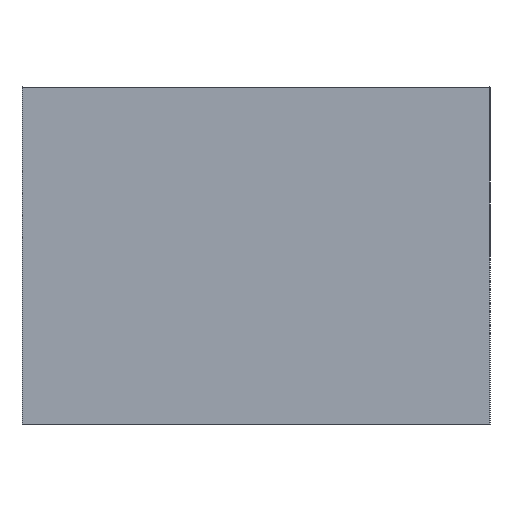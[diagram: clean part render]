
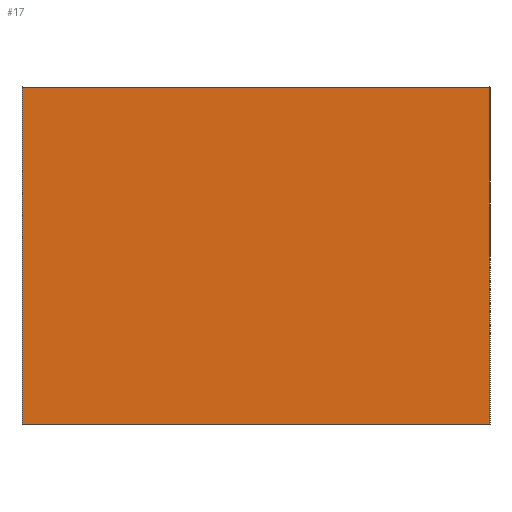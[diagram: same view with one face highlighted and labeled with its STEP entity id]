
A CAD part, left-side view. The second image highlights one B-rep face of the part: STEP entity #17.
In plain terms, the highlighted planar face has unit normal (-1, 0, 0).
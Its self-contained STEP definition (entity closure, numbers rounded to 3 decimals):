
#17 = ADVANCED_FACE('',(#18),#32,.F.);
#18 = FACE_BOUND('',#19,.F.);
#19 = EDGE_LOOP('',(#20,#55,#83,#111));
#20 = ORIENTED_EDGE('',*,*,#21,.F.);
#21 = EDGE_CURVE('',#22,#24,#26,.T.);
#22 = VERTEX_POINT('',#23);
#23 = CARTESIAN_POINT('',(-1.7,-0.9,0.));
#24 = VERTEX_POINT('',#25);
#25 = CARTESIAN_POINT('',(-1.7,-0.9,1.3));
#26 = SURFACE_CURVE('',#27,(#31,#43),.PCURVE_S1.);
#27 = LINE('',#28,#29);
#28 = CARTESIAN_POINT('',(-1.7,-0.9,0.));
#29 = VECTOR('',#30,1.);
#30 = DIRECTION('',(0.,0.,1.));
#31 = PCURVE('',#32,#37);
#32 = PLANE('',#33);
#33 = AXIS2_PLACEMENT_3D('',#34,#35,#36);
#34 = CARTESIAN_POINT('',(-1.7,-0.9,0.));
#35 = DIRECTION('',(1.,0.,0.));
#36 = DIRECTION('',(0.,0.,1.));
#37 = DEFINITIONAL_REPRESENTATION('',(#38),#42);
#38 = LINE('',#39,#40);
#39 = CARTESIAN_POINT('',(0.,0.));
#40 = VECTOR('',#41,1.);
#41 = DIRECTION('',(1.,0.));
#42 = ( GEOMETRIC_REPRESENTATION_CONTEXT(2) 
PARAMETRIC_REPRESENTATION_CONTEXT() REPRESENTATION_CONTEXT('2D SPACE',''
  ) );
#43 = PCURVE('',#44,#49);
#44 = PLANE('',#45);
#45 = AXIS2_PLACEMENT_3D('',#46,#47,#48);
#46 = CARTESIAN_POINT('',(-1.7,-0.9,0.));
#47 = DIRECTION('',(0.,1.,0.));
#48 = DIRECTION('',(0.,0.,1.));
#49 = DEFINITIONAL_REPRESENTATION('',(#50),#54);
#50 = LINE('',#51,#52);
#51 = CARTESIAN_POINT('',(0.,0.));
#52 = VECTOR('',#53,1.);
#53 = DIRECTION('',(1.,0.));
#54 = ( GEOMETRIC_REPRESENTATION_CONTEXT(2) 
PARAMETRIC_REPRESENTATION_CONTEXT() REPRESENTATION_CONTEXT('2D SPACE',''
  ) );
#55 = ORIENTED_EDGE('',*,*,#56,.T.);
#56 = EDGE_CURVE('',#22,#57,#59,.T.);
#57 = VERTEX_POINT('',#58);
#58 = CARTESIAN_POINT('',(-1.7,0.9,0.));
#59 = SURFACE_CURVE('',#60,(#64,#71),.PCURVE_S1.);
#60 = LINE('',#61,#62);
#61 = CARTESIAN_POINT('',(-1.7,-0.9,0.));
#62 = VECTOR('',#63,1.);
#63 = DIRECTION('',(0.,1.,0.));
#64 = PCURVE('',#32,#65);
#65 = DEFINITIONAL_REPRESENTATION('',(#66),#70);
#66 = LINE('',#67,#68);
#67 = CARTESIAN_POINT('',(0.,0.));
#68 = VECTOR('',#69,1.);
#69 = DIRECTION('',(0.,-1.));
#70 = ( GEOMETRIC_REPRESENTATION_CONTEXT(2) 
PARAMETRIC_REPRESENTATION_CONTEXT() REPRESENTATION_CONTEXT('2D SPACE',''
  ) );
#71 = PCURVE('',#72,#77);
#72 = PLANE('',#73);
#73 = AXIS2_PLACEMENT_3D('',#74,#75,#76);
#74 = CARTESIAN_POINT('',(-1.7,-0.9,0.));
#75 = DIRECTION('',(0.,0.,1.));
#76 = DIRECTION('',(1.,0.,0.));
#77 = DEFINITIONAL_REPRESENTATION('',(#78),#82);
#78 = LINE('',#79,#80);
#79 = CARTESIAN_POINT('',(0.,0.));
#80 = VECTOR('',#81,1.);
#81 = DIRECTION('',(0.,1.));
#82 = ( GEOMETRIC_REPRESENTATION_CONTEXT(2) 
PARAMETRIC_REPRESENTATION_CONTEXT() REPRESENTATION_CONTEXT('2D SPACE',''
  ) );
#83 = ORIENTED_EDGE('',*,*,#84,.T.);
#84 = EDGE_CURVE('',#57,#85,#87,.T.);
#85 = VERTEX_POINT('',#86);
#86 = CARTESIAN_POINT('',(-1.7,0.9,1.3));
#87 = SURFACE_CURVE('',#88,(#92,#99),.PCURVE_S1.);
#88 = LINE('',#89,#90);
#89 = CARTESIAN_POINT('',(-1.7,0.9,0.));
#90 = VECTOR('',#91,1.);
#91 = DIRECTION('',(0.,0.,1.));
#92 = PCURVE('',#32,#93);
#93 = DEFINITIONAL_REPRESENTATION('',(#94),#98);
#94 = LINE('',#95,#96);
#95 = CARTESIAN_POINT('',(0.,-1.8));
#96 = VECTOR('',#97,1.);
#97 = DIRECTION('',(1.,0.));
#98 = ( GEOMETRIC_REPRESENTATION_CONTEXT(2) 
PARAMETRIC_REPRESENTATION_CONTEXT() REPRESENTATION_CONTEXT('2D SPACE',''
  ) );
#99 = PCURVE('',#100,#105);
#100 = PLANE('',#101);
#101 = AXIS2_PLACEMENT_3D('',#102,#103,#104);
#102 = CARTESIAN_POINT('',(-1.7,0.9,0.));
#103 = DIRECTION('',(0.,1.,0.));
#104 = DIRECTION('',(0.,0.,1.));
#105 = DEFINITIONAL_REPRESENTATION('',(#106),#110);
#106 = LINE('',#107,#108);
#107 = CARTESIAN_POINT('',(0.,0.));
#108 = VECTOR('',#109,1.);
#109 = DIRECTION('',(1.,0.));
#110 = ( GEOMETRIC_REPRESENTATION_CONTEXT(2) 
PARAMETRIC_REPRESENTATION_CONTEXT() REPRESENTATION_CONTEXT('2D SPACE',''
  ) );
#111 = ORIENTED_EDGE('',*,*,#112,.F.);
#112 = EDGE_CURVE('',#24,#85,#113,.T.);
#113 = SURFACE_CURVE('',#114,(#118,#125),.PCURVE_S1.);
#114 = LINE('',#115,#116);
#115 = CARTESIAN_POINT('',(-1.7,-0.9,1.3));
#116 = VECTOR('',#117,1.);
#117 = DIRECTION('',(0.,1.,0.));
#118 = PCURVE('',#32,#119);
#119 = DEFINITIONAL_REPRESENTATION('',(#120),#124);
#120 = LINE('',#121,#122);
#121 = CARTESIAN_POINT('',(1.3,0.));
#122 = VECTOR('',#123,1.);
#123 = DIRECTION('',(0.,-1.));
#124 = ( GEOMETRIC_REPRESENTATION_CONTEXT(2) 
PARAMETRIC_REPRESENTATION_CONTEXT() REPRESENTATION_CONTEXT('2D SPACE',''
  ) );
#125 = PCURVE('',#126,#131);
#126 = PLANE('',#127);
#127 = AXIS2_PLACEMENT_3D('',#128,#129,#130);
#128 = CARTESIAN_POINT('',(-1.7,-0.9,1.3));
#129 = DIRECTION('',(0.,0.,1.));
#130 = DIRECTION('',(1.,0.,0.));
#131 = DEFINITIONAL_REPRESENTATION('',(#132),#136);
#132 = LINE('',#133,#134);
#133 = CARTESIAN_POINT('',(0.,0.));
#134 = VECTOR('',#135,1.);
#135 = DIRECTION('',(0.,1.));
#136 = ( GEOMETRIC_REPRESENTATION_CONTEXT(2) 
PARAMETRIC_REPRESENTATION_CONTEXT() REPRESENTATION_CONTEXT('2D SPACE',''
  ) );
